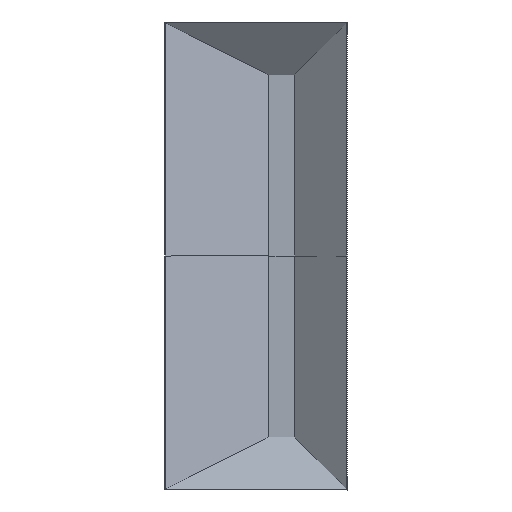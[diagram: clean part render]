
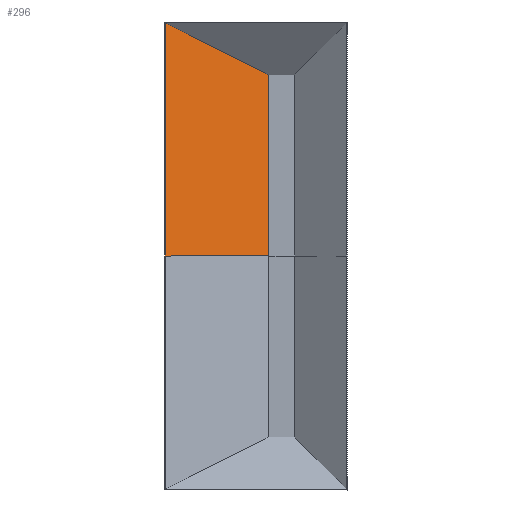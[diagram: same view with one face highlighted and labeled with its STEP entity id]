
A CAD part, front view. The second image highlights one B-rep face of the part: STEP entity #296.
In plain terms, the highlighted planar face has unit normal (0.351, -0.936, 0).
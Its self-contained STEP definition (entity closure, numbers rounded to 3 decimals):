
#296=ADVANCED_FACE('',(#448),#2161,.T.);
#448=FACE_OUTER_BOUND('',#612,.T.);
#612=EDGE_LOOP('',(#1216,#1217,#1218,#1219));
#1216=ORIENTED_EDGE('',*,*,#1569,.F.);
#1217=ORIENTED_EDGE('',*,*,#1574,.T.);
#1218=ORIENTED_EDGE('',*,*,#1571,.F.);
#1219=ORIENTED_EDGE('',*,*,#1576,.T.);
#1569=EDGE_CURVE('',#2065,#2064,#1859,.T.);
#1571=EDGE_CURVE('',#2067,#2066,#1861,.T.);
#1574=EDGE_CURVE('',#2065,#2066,#1864,.T.);
#1576=EDGE_CURVE('',#2067,#2064,#1866,.T.);
#1859=B_SPLINE_CURVE_WITH_KNOTS('',3,(#4122,#4123,#4124,#4125),
 .UNSPECIFIED.,.F.,.F.,(4,4),(482.242,909.442),
 .UNSPECIFIED.);
#1861=B_SPLINE_CURVE_WITH_KNOTS('',3,(#4130,#4131,#4132,#4133),
 .UNSPECIFIED.,.F.,.F.,(4,4),(482.328,954.027),
 .UNSPECIFIED.);
#1864=B_SPLINE_CURVE_WITH_KNOTS('',1,(#4142,#4143),.UNSPECIFIED.,.F.,.F.,
(2,2),(-1036.707,-334.707),.UNSPECIFIED.);
#1866=B_SPLINE_CURVE_WITH_KNOTS('',1,(#4146,#4147),.UNSPECIFIED.,.F.,.F.,
(2,2),(-902.509,0.),.UNSPECIFIED.);
#2064=VERTEX_POINT('',#4100);
#2065=VERTEX_POINT('',#4101);
#2066=VERTEX_POINT('',#4102);
#2067=VERTEX_POINT('',#4103);
#2161=PLANE('',#2263);
#2263=AXIS2_PLACEMENT_3D('',#4083,#2348,$);
#2348=DIRECTION('',(0.351,-0.936,0.));
#4083=CARTESIAN_POINT('',(1725.049,0.,931.));
#4100=CARTESIAN_POINT('',(1325.049,-150.,931.));
#4101=CARTESIAN_POINT('',(1725.049,0.,931.));
#4102=CARTESIAN_POINT('',(1725.049,0.,1631.));
#4103=CARTESIAN_POINT('',(1325.049,-150.,1831.));
#4122=CARTESIAN_POINT('',(1725.049,0.,931.));
#4123=CARTESIAN_POINT('',(1591.716,-50.,931.));
#4124=CARTESIAN_POINT('',(1458.382,-100.,931.));
#4125=CARTESIAN_POINT('',(1325.049,-150.,931.));
#4130=CARTESIAN_POINT('',(1325.049,-150.,1831.));
#4131=CARTESIAN_POINT('',(1458.382,-100.,1764.333));
#4132=CARTESIAN_POINT('',(1591.716,-50.,1697.667));
#4133=CARTESIAN_POINT('',(1725.049,0.,1631.));
#4142=CARTESIAN_POINT('',(1725.049,0.,931.));
#4143=CARTESIAN_POINT('',(1725.049,0.,1631.));
#4146=CARTESIAN_POINT('',(1325.049,-150.,1831.));
#4147=CARTESIAN_POINT('',(1325.049,-150.,931.));
